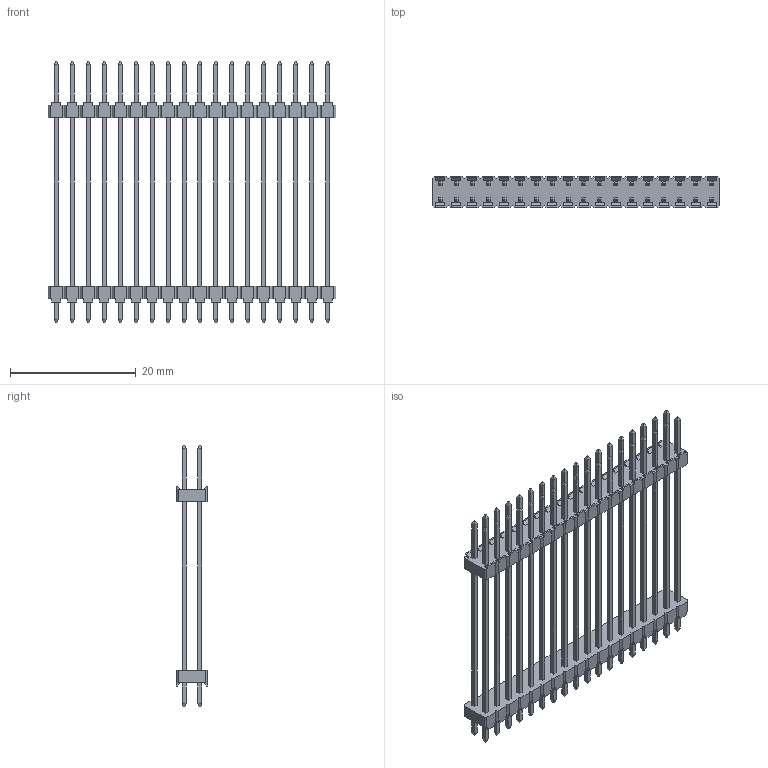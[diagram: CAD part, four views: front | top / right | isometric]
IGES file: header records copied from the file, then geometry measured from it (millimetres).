
Global section: file name: N:\GOLF_VI_2_54mm_UGII\9614XX-X04XX04-XX (TS-2185)\961436-8041604-XX.igs; native system: NX V3.0; preprocessor: UGS NX IGES V4.0; date: 20070618.112648; units: millimetre
Bounding box: 45.72 x 5 x 41.6 mm (x, y, z)
Surface area: 4809 mm2 (no closed solid volume)
Topology: 0 solids, 0 shells, 1380 faces, 7249 edges, 7249 vertices
Faces by surface type: bspline 1380
